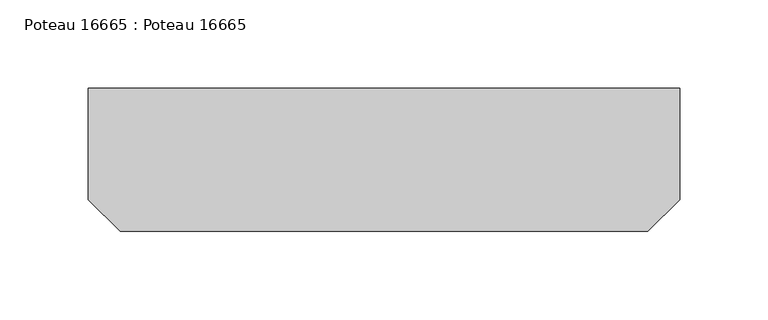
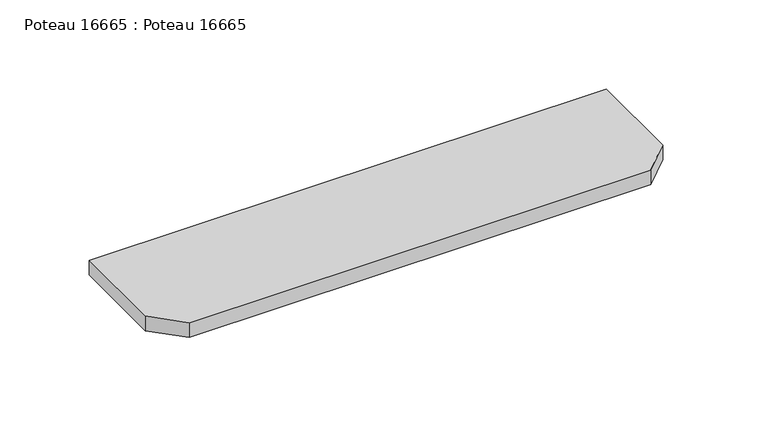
"""IFC4 building model written with IfcOpenShell, lengths in millimetres: beam geometry, Poteau 16665 : Poteau 16665."""

from ifc_helpers import new_model, si_unit, frame, origin, place, context, project, spatial, polyline, outline, extrude, source, transform, mapped, element, save


def poteau_16665_poteau_16665_6de4cea6(model_context):
    return source(origin(), model_context, "Body", "SweptSolid", [
        extrude(outline(polyline([(-166.9923577, -4215.0), (167.6076423, -4215.0), (167.6076423, -4278.0), (149.6076423, -4296.0), (-148.9923577, -4296.0), (-166.9923577, -4278.0), (-166.9923577, -4215.0)])), frame((0.0, 0.0, 7226.4270331), z_axis=(0.0, 0.0, 1.0), x_axis=(1.0, 0.0, 0.0)), (0.0, 0.0, 1.0), 10.0),
    ])


if __name__ == "__main__":
    model = new_model("IFC4")
    model_context = context("Model", 3, world=origin())
    ifc_project = project(units=[si_unit("LENGTHUNIT", "METRE", prefix="MILLI")], contexts=[model_context])
    site = spatial("IfcSite", under=ifc_project)
    building = spatial("IfcBuilding", under=site)
    placement = place(None, origin())
    poteau_16665_poteau_16665_shape = poteau_16665_poteau_16665_6de4cea6(model_context)
    element("IfcBeam", 1, ObjectType="Poteau 16665 : Poteau 16665", at=placement, inside=building, context=model_context, shape_type="MappedRepresentation", body=[
        mapped(poteau_16665_poteau_16665_shape, transform((0.0, 0.0, 0.0), x_axis=(1.0, 0.0, 0.0), y_axis=(0.0, 1.0, 0.0), z_axis=(0.0, 0.0, 1.0))),
    ])
    save(model, "model.ifc")
